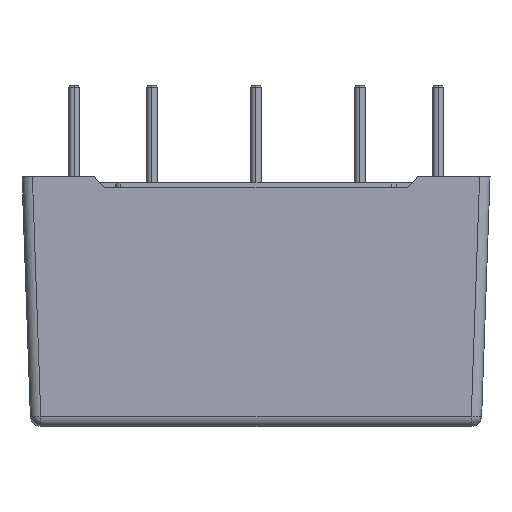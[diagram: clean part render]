
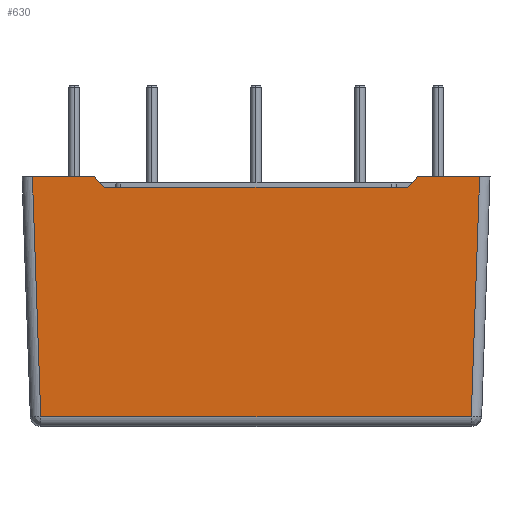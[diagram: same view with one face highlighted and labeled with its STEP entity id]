
A CAD part, left-side view. The second image highlights one B-rep face of the part: STEP entity #630.
In plain terms, the highlighted planar face has unit normal (-0.999, 0, -0.035).
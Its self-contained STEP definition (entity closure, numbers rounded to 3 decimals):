
#312 = ORIENTED_EDGE ( 'NONE', *, *, #11557, .F. ) ;
#630 = ADVANCED_FACE ( 'NONE', ( #9969 ), #6364, .T. ) ;
#958 = VERTEX_POINT ( 'NONE', #3320 ) ;
#1001 = ORIENTED_EDGE ( 'NONE', *, *, #8502, .F. ) ;
#1063 = LINE ( 'NONE', #9901, #11937 ) ;
#1366 = CARTESIAN_POINT ( 'NONE',  ( 0.035, 37.034, 23. ) ) ;
#1381 = CARTESIAN_POINT ( 'NONE',  ( 0., 44.001, 24. ) ) ;
#1670 = VECTOR ( 'NONE', #10964, 1000. ) ;
#1739 = VERTEX_POINT ( 'NONE', #1366 ) ;
#2005 = EDGE_CURVE ( 'NONE', #9704, #7897, #13648, .T. ) ;
#2099 = VECTOR ( 'NONE', #11626, 1000. ) ;
#2395 = DIRECTION ( 'NONE',  ( 0., -1., 0. ) ) ;
#2471 = ORIENTED_EDGE ( 'NONE', *, *, #2005, .T. ) ;
#2527 = DIRECTION ( 'NONE',  ( 0.025, 0.694, -0.719 ) ) ;
#2549 = DIRECTION ( 'NONE',  ( 0., -1., 0. ) ) ;
#2905 = VECTOR ( 'NONE', #5984, 1000. ) ;
#3170 = CARTESIAN_POINT ( 'NONE',  ( 0., 38., 24. ) ) ;
#3320 = CARTESIAN_POINT ( 'NONE',  ( 0.035, 7.966, 23. ) ) ;
#4226 = CARTESIAN_POINT ( 'NONE',  ( 0., 22.5, 24. ) ) ;
#4228 = VERTEX_POINT ( 'NONE', #11548 ) ;
#4298 = DIRECTION ( 'NONE',  ( -0.999, 0., -0.035 ) ) ;
#4383 = EDGE_CURVE ( 'NONE', #6931, #12288, #12723, .T. ) ;
#4508 = LINE ( 'NONE', #9913, #1670 ) ;
#4683 = VECTOR ( 'NONE', #8740, 1000. ) ;
#5269 = ORIENTED_EDGE ( 'NONE', *, *, #10698, .F. ) ;
#5528 = LINE ( 'NONE', #6779, #13566 ) ;
#5984 = DIRECTION ( 'NONE',  ( 0., -1., 0. ) ) ;
#6064 = DIRECTION ( 'NONE',  ( -0.035, -0.035, 0.999 ) ) ;
#6195 = EDGE_LOOP ( 'NONE', ( #2471, #1001, #9988, #5269, #312, #10694, #6550, #7273 ) ) ;
#6364 = PLANE ( 'NONE',  #12420 ) ;
#6550 = ORIENTED_EDGE ( 'NONE', *, *, #4383, .T. ) ;
#6632 = CARTESIAN_POINT ( 'NONE',  ( 0., 44.001, 24. ) ) ;
#6779 = CARTESIAN_POINT ( 'NONE',  ( 0., 22.5, 24. ) ) ;
#6931 = VERTEX_POINT ( 'NONE', #6632 ) ;
#7088 = CARTESIAN_POINT ( 'NONE',  ( 0.804, 1.804, 0.965 ) ) ;
#7273 = ORIENTED_EDGE ( 'NONE', *, *, #7745, .T. ) ;
#7539 = VECTOR ( 'NONE', #2527, 1000. ) ;
#7745 = EDGE_CURVE ( 'NONE', #12288, #9704, #10978, .T. ) ;
#7897 = VERTEX_POINT ( 'NONE', #13525 ) ;
#8490 = VERTEX_POINT ( 'NONE', #3170 ) ;
#8502 = EDGE_CURVE ( 'NONE', #4228, #7897, #12980, .T. ) ;
#8740 = DIRECTION ( 'NONE',  ( 0.035, -0.035, -0.999 ) ) ;
#8798 = CARTESIAN_POINT ( 'NONE',  ( 0., 7., 24. ) ) ;
#9622 = CARTESIAN_POINT ( 'NONE',  ( 0.804, 43.196, 0.965 ) ) ;
#9704 = VERTEX_POINT ( 'NONE', #7088 ) ;
#9901 = CARTESIAN_POINT ( 'NONE',  ( 0.035, 22.5, 23. ) ) ;
#9913 = CARTESIAN_POINT ( 'NONE',  ( 0., 38., 24. ) ) ;
#9969 = FACE_OUTER_BOUND ( 'NONE', #6195, .T. ) ;
#9988 = ORIENTED_EDGE ( 'NONE', *, *, #10105, .T. ) ;
#10105 = EDGE_CURVE ( 'NONE', #4228, #958, #13133, .T. ) ;
#10594 = CARTESIAN_POINT ( 'NONE',  ( 0.838, 0., 0.015 ) ) ;
#10694 = ORIENTED_EDGE ( 'NONE', *, *, #11035, .F. ) ;
#10698 = EDGE_CURVE ( 'NONE', #1739, #958, #1063, .T. ) ;
#10876 = VECTOR ( 'NONE', #6064, 1000. ) ;
#10964 = DIRECTION ( 'NONE',  ( 0.025, -0.694, -0.719 ) ) ;
#10978 = LINE ( 'NONE', #12254, #2905 ) ;
#11035 = EDGE_CURVE ( 'NONE', #6931, #8490, #5528, .T. ) ;
#11548 = CARTESIAN_POINT ( 'NONE',  ( 0., 7., 24. ) ) ;
#11557 = EDGE_CURVE ( 'NONE', #8490, #1739, #4508, .T. ) ;
#11626 = DIRECTION ( 'NONE',  ( 0., -1., 0. ) ) ;
#11641 = DIRECTION ( 'NONE',  ( -0.035, 0., 0.999 ) ) ;
#11937 = VECTOR ( 'NONE', #2549, 1000. ) ;
#12254 = CARTESIAN_POINT ( 'NONE',  ( 0.804, 0., 0.965 ) ) ;
#12288 = VERTEX_POINT ( 'NONE', #9622 ) ;
#12341 = CARTESIAN_POINT ( 'NONE',  ( 0.804, 1.804, 0.965 ) ) ;
#12420 = AXIS2_PLACEMENT_3D ( 'NONE', #10594, #4298, #11641 ) ;
#12723 = LINE ( 'NONE', #1381, #4683 ) ;
#12980 = LINE ( 'NONE', #4226, #2099 ) ;
#13133 = LINE ( 'NONE', #8798, #7539 ) ;
#13525 = CARTESIAN_POINT ( 'NONE',  ( 0., 0.999, 24. ) ) ;
#13566 = VECTOR ( 'NONE', #2395, 1000. ) ;
#13648 = LINE ( 'NONE', #12341, #10876 ) ;
